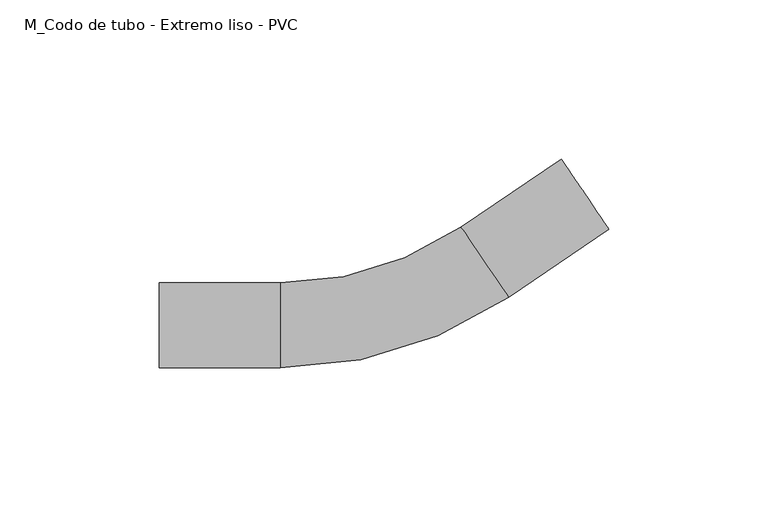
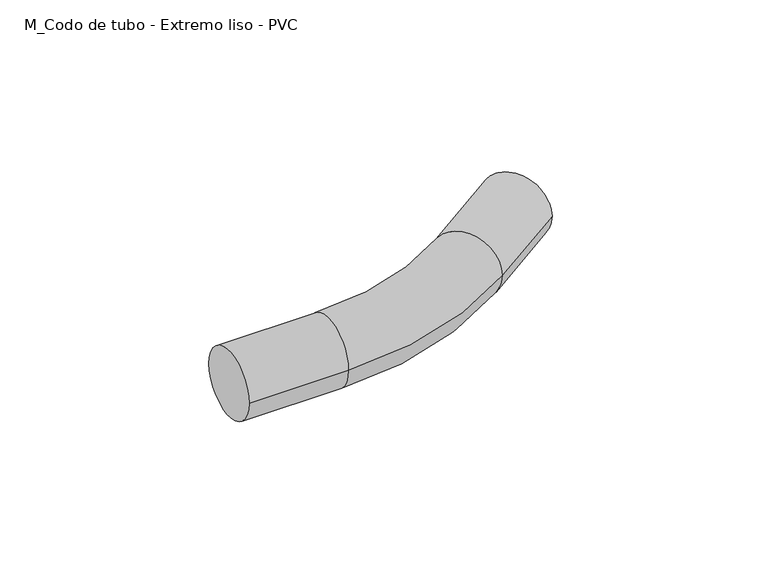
"""IFC4 building model written with IfcOpenShell, lengths in millimetres: cable carrier fitting geometry, M_Codo de tubo - Extremo liso - PVC : CODO ILUMINACION."""

from ifc_helpers import new_model, si_unit, point, frame, origin, place, context, project, spatial, circle_curve, ellipse_curve, trimmed, source, transform, mapped, element, save
from ifc_brep_helpers import plane_surface, cylinder_surface, revolved_surface, advanced_brep


def m_codo_de_tubo_extremo_liso_pvc_6d9fa8a7(model_context):
    return source(origin(), model_context, "Body", "AdvancedBrep", [
        advanced_brep(
        [(-73.2938999, -13.335, 0.0), (-73.2938999, 13.335, 0.0), (-35.1938999, -13.335, 0.0), (-35.1938999, 13.335, 0.0), (21.5977227, 30.8216026, 0.0), (36.5992834, 8.7707052, 0.0), (68.1005654, 30.2015061, 0.0), (53.0990047, 52.2524036, 0.0)],
        [
            (0, 1, circle_curve(frame((-73.2938999, 0.0, 0.0), z_axis=(-1.0, 0.0, 0.0), x_axis=(0.0, 1.0, 0.0)), 13.335)),
            (1, 0, circle_curve(frame((-73.2938999, 0.0, 0.0), z_axis=(-1.0, 0.0, 0.0), x_axis=(0.0, 1.0, 0.0)), 13.335)),
            (0, 2),
            (2, 3, circle_curve(frame((-35.1938999, 0.0, 0.0), z_axis=(-1.0, 0.0, 0.0), x_axis=(0.0, 1.0, 0.0)), 13.335)),
            (3, 1),
            (3, 2, circle_curve(frame((-35.1938999, 0.0, 0.0), z_axis=(-1.0, 0.0, 0.0), x_axis=(0.0, 1.0, 0.0)), 13.335)),
            (4, 3, circle_curve(frame((-35.1938999, 114.3, 0.0), z_axis=(0.0, 0.0, -1.0), x_axis=(0.0, -1.0, 0.0)), 100.965)),
            (2, 5, circle_curve(frame((-35.1938999, 114.3, 0.0), z_axis=(0.0, 0.0, 1.0), x_axis=(0.0, -1.0, 0.0)), 127.635)),
            (5, 4, circle_curve(frame((29.098503, 19.7961539, 0.0), z_axis=(-0.8268053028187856, -0.5624882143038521, 0.0), x_axis=(-0.5624882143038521, 0.8268053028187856, 0.0)), 13.335)),
            (4, 5, circle_curve(frame((29.098503, 19.7961539, 0.0), z_axis=(-0.8268053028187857, -0.562488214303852, 0.0), x_axis=(-0.562488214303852, 0.8268053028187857, 0.0)), 13.335)),
            (6, 7, circle_curve(frame((60.5997851, 41.2269549, 0.0), z_axis=(0.8268053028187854, 0.5624882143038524, 0.0), x_axis=(-0.5624882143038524, 0.8268053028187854, 0.0)), 13.335)),
            (7, 6, circle_curve(frame((60.5997851, 41.2269549, 0.0), z_axis=(0.8268053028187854, 0.5624882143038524, 0.0), x_axis=(-0.5624882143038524, 0.8268053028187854, 0.0)), 13.335)),
            (5, 6),
            (7, 4),
        ],
        [
            plane_surface(frame((-73.2938999, 0.0, 0.0), z_axis=(-1.0, 0.0, 0.0), x_axis=(0.0, 0.0, 1.0))),
            cylinder_surface(frame((-73.2938999, 0.0, 0.0), z_axis=(-1.0, 0.0, 0.0), x_axis=(0.0, 1.0, 0.0)), 13.335),
            revolved_surface(trimmed(ellipse_curve(frame((-35.1938999, 0.0, 0.0), z_axis=(-1.0, 0.0, 0.0), x_axis=(0.0, 1.0, 0.0)), 13.335, 13.335), [point((-35.1938999, -13.335, 0.0))], [point((-35.1938999, 13.335, 0.0))], True, "CARTESIAN"), (-35.1938999, 114.3, 0.0), (0.0, 0.0, 1.0)),
            revolved_surface(trimmed(ellipse_curve(frame((-35.1938999, 0.0, 0.0), z_axis=(-1.0, 0.0, 0.0), x_axis=(0.0, 1.0, 0.0)), 13.335, 13.335), [point((-35.1938999, 13.335, 0.0))], [point((-35.1938999, -13.335, 0.0))], True, "CARTESIAN"), (-35.1938999, 114.3, 0.0), (0.0, 0.0, 1.0)),
            plane_surface(frame((60.5997851, 41.2269549, 0.0), z_axis=(0.8268053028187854, 0.5624882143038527, 0.0), x_axis=(0.0, 0.0, 1.0))),
            cylinder_surface(frame((29.098503, 19.7961539, 0.0), z_axis=(-0.8268053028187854, -0.5624882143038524, 0.0), x_axis=(-0.5624882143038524, 0.8268053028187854, 0.0)), 13.335),
        ],
        [
            (0, [[1, 2]]),
            (1, [[-1, 3, 4, 5]]),
            (1, [[-2, -5, 6, -3]]),
            (2, [[7, -4, 8, 9]]),
            (3, [[-8, -6, -7, 10]]),
            (4, [[11, 12]]),
            (5, [[-9, 13, -12, 14]]),
            (5, [[-10, -14, -11, -13]]),
        ],
    ),
    ])


if __name__ == "__main__":
    model = new_model("IFC4")
    model_context = context("Model", 3, world=origin())
    ifc_project = project(units=[si_unit("LENGTHUNIT", "METRE", prefix="MILLI")], contexts=[model_context])
    site = spatial("IfcSite", under=ifc_project)
    building = spatial("IfcBuilding", under=site)
    placement = place(None, origin())
    m_codo_de_tubo_extremo_liso_pvc_shape = m_codo_de_tubo_extremo_liso_pvc_6d9fa8a7(model_context)
    element("IfcCableCarrierFitting", 1, ObjectType="M_Codo de tubo - Extremo liso - PVC : CODO ILUMINACION", at=placement, inside=building, context=model_context, shape_type="MappedRepresentation", body=[
        mapped(m_codo_de_tubo_extremo_liso_pvc_shape, transform((0.0, 0.0, 0.0), x_axis=(1.0, 0.0, 0.0), y_axis=(0.0, 1.0, 0.0), z_axis=(0.0, 0.0, 1.0))),
    ])
    save(model, "model.ifc")
